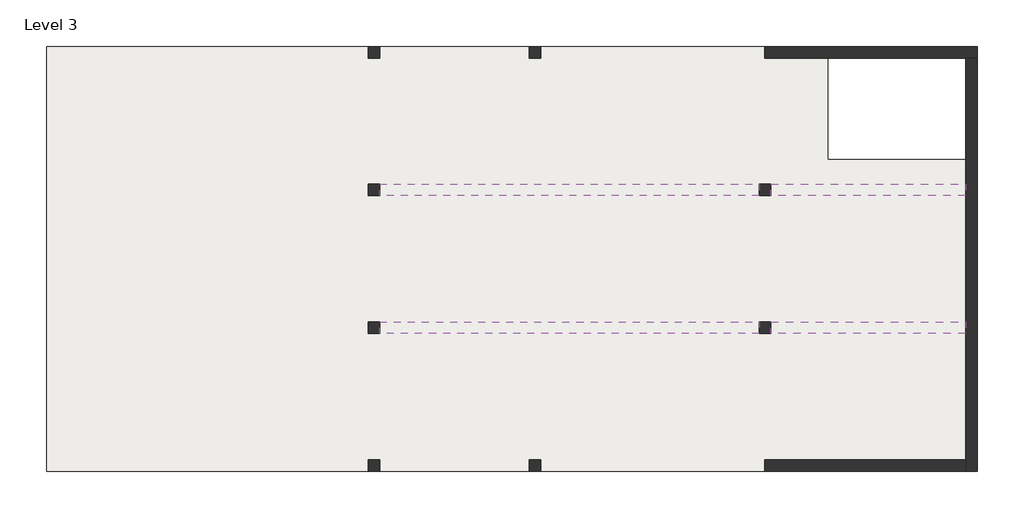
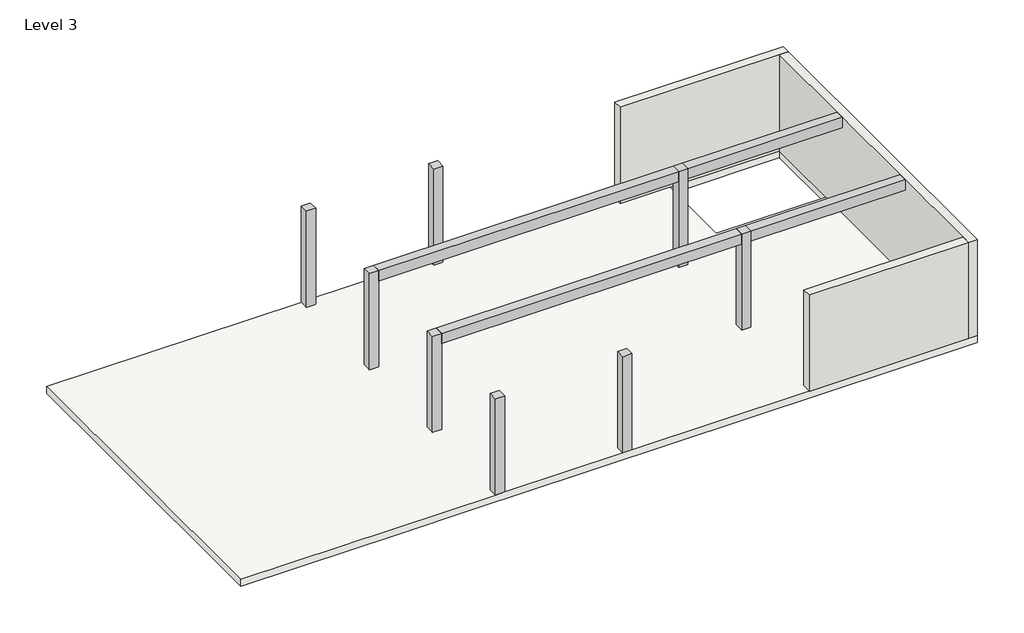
# One storey: 8 columns, 4 beams, 3 walls, 1 slab.
"""IFC4 building model written with IfcOpenShell, lengths in millimetres."""

from ifc_helpers import new_model, si_unit, frame, origin, place, context, project, spatial, polyline, outline, extrude, faceted_brep, element, save

model = new_model("IFC4")

# Units and contexts
model_context = context("Model", 3, world=origin())
ifc_project = project(units=[si_unit("LENGTHUNIT", "METRE", prefix="MILLI")], contexts=[model_context])

# Site, building, storey
site = spatial("IfcSite", under=ifc_project)
building = spatial("IfcBuilding", under=site)
storey = spatial("IfcBuildingStorey", under=building, Name="Level 3", Elevation=6000.0)

# Beams
placement = place(None, origin())
element("IfcBeam", 1, ObjectType="M_Concrete-Rectangular Beam : 25/50 cm", at=placement, inside=storey, context=model_context, shape_type="SweptSolid", body=[
    extrude(outline(polyline([(-6618.1210397, -3913.8455619), (-6618.1210397, -3663.8455619), (1631.8789603, -3663.8455619), (1631.8789603, -3913.8455619), (-6618.1210397, -3913.8455619)])), frame((0.0, 0.0, 8500.0), z_axis=(0.0, 0.0, 1.0), x_axis=(1.0, 0.0, 0.0)), (0.0, 0.0, 1.0), 300.0),
])
element("IfcBeam", 2, ObjectType="M_Concrete-Rectangular Beam : 25/50 cm", at=placement, inside=storey, context=model_context, shape_type="SweptSolid", body=[
    extrude(outline(polyline([(1881.8789603, -3913.8455619), (1881.8789603, -3663.8455619), (6131.8789603, -3663.8455619), (6131.8789603, -3913.8455619), (1881.8789603, -3913.8455619)])), frame((0.0, 0.0, 8500.0), z_axis=(0.0, 0.0, 1.0), x_axis=(1.0, 0.0, 0.0)), (0.0, 0.0, 1.0), 300.0),
])
element("IfcBeam", 3, ObjectType="M_Concrete-Rectangular Beam : 25/50 cm", at=placement, inside=storey, context=model_context, shape_type="SweptSolid", body=[
    extrude(outline(polyline([(-6618.1210397, -6913.8455619), (-6618.1210397, -6663.8455619), (1631.8789603, -6663.8455619), (1631.8789603, -6913.8455619), (-6618.1210397, -6913.8455619)])), frame((0.0, 0.0, 8500.0), z_axis=(0.0, 0.0, 1.0), x_axis=(1.0, 0.0, 0.0)), (0.0, 0.0, 1.0), 300.0),
])
element("IfcBeam", 4, ObjectType="M_Concrete-Rectangular Beam : 25/50 cm", at=placement, inside=storey, context=model_context, shape_type="SweptSolid", body=[
    extrude(outline(polyline([(1881.8789603, -6913.8455619), (1881.8789603, -6663.8455619), (6131.8789603, -6663.8455619), (6131.8789603, -6913.8455619), (1881.8789603, -6913.8455619)])), frame((0.0, 0.0, 8500.0), z_axis=(0.0, 0.0, 1.0), x_axis=(1.0, 0.0, 0.0)), (0.0, 0.0, 1.0), 300.0),
])

# Columns
element("IfcColumn", 5, ObjectType="M_Concrete-Rectangular-Column : 25 x 25", at=placement, inside=storey, context=model_context, shape_type="SweptSolid", body=[
    extrude(outline(polyline([(-6618.1210397, -663.8455619), (-6618.1210397, -913.8455619), (-6868.1210397, -913.8455619), (-6868.1210397, -663.8455619), (-6618.1210397, -663.8455619)])), frame((0.0, 0.0, 6000.0), z_axis=(0.0, 0.0, 1.0), x_axis=(1.0, 0.0, 0.0)), (0.0, 0.0, 1.0), 2800.0),
])
element("IfcColumn", 6, ObjectType="M_Concrete-Rectangular-Column : 25 x 25", at=placement, inside=storey, context=model_context, shape_type="SweptSolid", body=[
    extrude(outline(polyline([(-3118.1210397, -663.8455619), (-3118.1210397, -913.8455619), (-3368.1210397, -913.8455619), (-3368.1210397, -663.8455619), (-3118.1210397, -663.8455619)])), frame((0.0, 0.0, 6000.0), z_axis=(0.0, 0.0, 1.0), x_axis=(1.0, 0.0, 0.0)), (0.0, 0.0, 1.0), 2800.0),
])
element("IfcColumn", 7, ObjectType="M_Concrete-Rectangular-Column : 25 x 25", at=placement, inside=storey, context=model_context, shape_type="SweptSolid", body=[
    extrude(outline(polyline([(-6618.1210397, -3663.8455619), (-6618.1210397, -3913.8455619), (-6868.1210397, -3913.8455619), (-6868.1210397, -3663.8455619), (-6618.1210397, -3663.8455619)])), frame((0.0, 0.0, 6000.0), z_axis=(0.0, 0.0, 1.0), x_axis=(1.0, 0.0, 0.0)), (0.0, 0.0, 1.0), 2800.0),
])
element("IfcColumn", 8, ObjectType="M_Concrete-Rectangular-Column : 25 x 25", at=placement, inside=storey, context=model_context, shape_type="SweptSolid", body=[
    extrude(outline(polyline([(-6618.1210397, -6663.8455619), (-6618.1210397, -6913.8455619), (-6868.1210397, -6913.8455619), (-6868.1210397, -6663.8455619), (-6618.1210397, -6663.8455619)])), frame((0.0, 0.0, 6000.0), z_axis=(0.0, 0.0, 1.0), x_axis=(1.0, 0.0, 0.0)), (0.0, 0.0, 1.0), 2800.0),
])
element("IfcColumn", 9, ObjectType="M_Concrete-Rectangular-Column : 25 x 25", at=placement, inside=storey, context=model_context, shape_type="SweptSolid", body=[
    extrude(outline(polyline([(-6618.1210397, -9663.8455619), (-6618.1210397, -9913.8455619), (-6868.1210397, -9913.8455619), (-6868.1210397, -9663.8455619), (-6618.1210397, -9663.8455619)])), frame((0.0, 0.0, 6000.0), z_axis=(0.0, 0.0, 1.0), x_axis=(1.0, 0.0, 0.0)), (0.0, 0.0, 1.0), 2800.0),
])
element("IfcColumn", 10, ObjectType="M_Concrete-Rectangular-Column : 25 x 25", at=placement, inside=storey, context=model_context, shape_type="SweptSolid", body=[
    extrude(outline(polyline([(-3118.1210397, -9663.8455619), (-3118.1210397, -9913.8455619), (-3368.1210397, -9913.8455619), (-3368.1210397, -9663.8455619), (-3118.1210397, -9663.8455619)])), frame((0.0, 0.0, 6000.0), z_axis=(0.0, 0.0, 1.0), x_axis=(1.0, 0.0, 0.0)), (0.0, 0.0, 1.0), 2800.0),
])
element("IfcColumn", 11, ObjectType="M_Concrete-Rectangular-Column : 25 x 25", at=placement, inside=storey, context=model_context, shape_type="SweptSolid", body=[
    extrude(outline(polyline([(1881.8789603, -3663.8455619), (1881.8789603, -3913.8455619), (1631.8789603, -3913.8455619), (1631.8789603, -3663.8455619), (1881.8789603, -3663.8455619)])), frame((0.0, 0.0, 6000.0), z_axis=(0.0, 0.0, 1.0), x_axis=(1.0, 0.0, 0.0)), (0.0, 0.0, 1.0), 2800.0),
])
element("IfcColumn", 12, ObjectType="M_Concrete-Rectangular-Column : 25 x 25", at=placement, inside=storey, context=model_context, shape_type="SweptSolid", body=[
    extrude(outline(polyline([(1881.8789603, -6663.8455619), (1881.8789603, -6913.8455619), (1631.8789603, -6913.8455619), (1631.8789603, -6663.8455619), (1881.8789603, -6663.8455619)])), frame((0.0, 0.0, 6000.0), z_axis=(0.0, 0.0, 1.0), x_axis=(1.0, 0.0, 0.0)), (0.0, 0.0, 1.0), 2800.0),
])

# Slab
element("IfcSlab", 13, ObjectType="Concrete Slab 20 cm", at=placement, inside=storey, context=model_context, shape_type="Brep", body=[
    faceted_brep([(6381.8789603, -663.8455619, 5800.0), (6381.8789603, -9913.8455619, 5800.0), (-6243.1210397, -9913.8455619, 5800.0), (-7243.1210397, -9913.8455619, 5800.0), (-9743.1210397, -9913.8455619, 5800.0), (-10743.1210397, -9913.8455619, 5800.0), (-13868.1210397, -9913.8455619, 5800.0), (-13868.1210397, -7288.8455619, 5800.0), (-13868.1210397, -6288.8455619, 5800.0), (-13868.1210397, -4288.8455619, 5800.0), (-13868.1210397, -3288.8455619, 5800.0), (-13868.1210397, -663.8455619, 5800.0), (-10743.1210397, -663.8455619, 5800.0), (-9743.1210397, -663.8455619, 5800.0), (-7243.1210397, -663.8455619, 5800.0), (-6243.1210397, -663.8455619, 5800.0), (3131.8789603, -913.8455619, 5800.0), (3131.8789603, -3113.8455619, 5800.0), (6131.8789603, -3113.8455619, 5800.0), (6131.8789603, -913.8455619, 5800.0), (6381.8789603, -9913.8455619, 6000.0), (6381.8789603, -663.8455619, 6000.0), (-3118.1210397, -663.8455619, 6000.0), (-3368.1210397, -663.8455619, 6000.0), (-6618.1210397, -663.8455619, 6000.0), (-6868.1210397, -663.8455619, 6000.0), (-13868.1210397, -663.8455619, 6000.0), (-13868.1210397, -9913.8455619, 6000.0), (-6868.1210397, -9913.8455619, 6000.0), (-6618.1210397, -9913.8455619, 6000.0), (-3368.1210397, -9913.8455619, 6000.0), (-3118.1210397, -9913.8455619, 6000.0), (3131.8789603, -3113.8455619, 6000.0), (3131.8789603, -913.8455619, 6000.0), (6131.8789603, -913.8455619, 6000.0), (6131.8789603, -3113.8455619, 6000.0)], [[[0, 1, 2, 3, 4, 5, 6, 7, 8, 9, 10, 11, 12, 13, 14, 15], [16, 17, 18, 19]], [[20, 21, 22, 23, 24, 25, 26, 27, 28, 29, 30, 31], [32, 33, 34, 35]], [[1, 0, 21, 20]], [[6, 5, 4, 3, 2, 1, 20, 31, 30, 29, 28, 27]], [[11, 10, 9, 8, 7, 6, 27, 26]], [[0, 15, 14, 13, 12, 11, 26, 25, 24, 23, 22, 21]], [[16, 33, 32, 17]], [[17, 32, 35, 18]], [[18, 35, 34, 19]], [[33, 16, 19, 34]]]),
])

# Walls
element("IfcWall", 14, ObjectType="Concrete 25 cm", at=placement, inside=storey, context=model_context, shape_type="Brep", body=[
    faceted_brep([(1756.8789603, -913.8455619, 6000.0), (6131.8789603, -913.8455619, 6000.0), (6381.8789603, -913.8455619, 6000.0), (6381.8789603, -913.8455619, 8800.0), (6131.8789603, -913.8455619, 8800.0), (1756.8789603, -913.8455619, 8800.0), (1756.8789603, -663.8455619, 6000.0), (1756.8789603, -663.8455619, 8800.0), (6381.8789603, -663.8455619, 8800.0), (6381.8789603, -663.8455619, 6000.0)], [[[0, 1, 2, 3, 4, 5]], [[6, 7, 8, 9]], [[2, 1, 0, 6, 9]], [[0, 5, 7, 6]], [[3, 2, 9, 8]], [[5, 4, 3, 8, 7]]]),
])
element("IfcWall", 15, ObjectType="Concrete 25 cm", at=placement, inside=storey, context=model_context, shape_type="Brep", body=[
    faceted_brep([(6131.8789603, -913.8455619, 6000.0), (6131.8789603, -9663.8455619, 6000.0), (6131.8789603, -9913.8455619, 6000.0), (6131.8789603, -9913.8455619, 8800.0), (6131.8789603, -9663.8455619, 8800.0), (6131.8789603, -913.8455619, 8800.0), (6381.8789603, -913.8455619, 6000.0), (6381.8789603, -913.8455619, 8800.0), (6381.8789603, -9913.8455619, 8800.0), (6381.8789603, -9913.8455619, 6000.0)], [[[0, 1, 2, 3, 4, 5]], [[6, 7, 8, 9]], [[2, 1, 0, 6, 9]], [[0, 5, 7, 6]], [[3, 2, 9, 8]], [[5, 4, 3, 8, 7]]]),
])
element("IfcWall", 16, ObjectType="Concrete 25 cm", at=placement, inside=storey, context=model_context, shape_type="SweptSolid", body=[
    extrude(outline(polyline([(1756.8789603, -9663.8455619), (6131.8789603, -9663.8455619), (6131.8789603, -9913.8455619), (1756.8789603, -9913.8455619), (1756.8789603, -9663.8455619)])), frame((0.0, 0.0, 6000.0), z_axis=(0.0, 0.0, 1.0), x_axis=(1.0, 0.0, 0.0)), (0.0, 0.0, 1.0), 2800.0),
])

save(model, "model.ifc")
